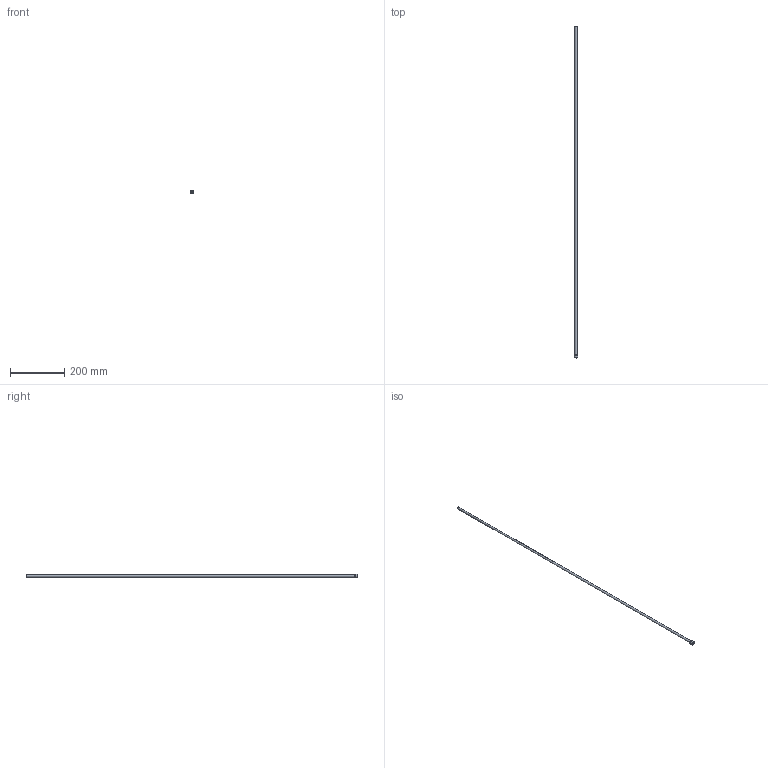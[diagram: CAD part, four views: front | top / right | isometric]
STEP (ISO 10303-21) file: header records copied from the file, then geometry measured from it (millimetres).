
FILE_DESCRIPTION(/* description */ (''),/* implementation_level */ '2;1');
FILE_NAME(/* name */ 'C:/Users/drich/Desktop/PT14-312-48 v1.step',/* time_stamp */ '2019-12-27T15:11:08-06:00',/* author */ (''),/* organization */ (''),/* preprocessor_version */ 'ST-DEVELOPER v18',/* originating_system */ 'Autodesk Translation Framework v8.12.0.6',/* authorisation */ '');
FILE_SCHEMA (('AUTOMOTIVE_DESIGN { 1 0 10303 214 3 1 1 }'));
Length unit declared in the file: inch
Products named in the file (1): PT14-312-48
Bounding box: 13.03 x 1219.2 x 13.03 mm (x, y, z)
Volume: 9708 mm3; surface area: 58725.2 mm2
Topology: 1 solids, 1 shells, 19 faces, 48 edges, 34 vertices
Faces by surface type: plane 11, cylinder 4, torus 2, cone 2
Full cylindrical faces by diameter (mm): 7.315 x1, 7.925 x1, 9.906 x1, 13.032 x1
Entity records: 633 total; most frequent: DIRECTION 112, CARTESIAN_POINT 102, ORIENTED_EDGE 96, EDGE_CURVE 48, AXIS2_PLACEMENT_3D 44, VERTEX_POINT 34, CIRCLE 24, EDGE_LOOP 24
